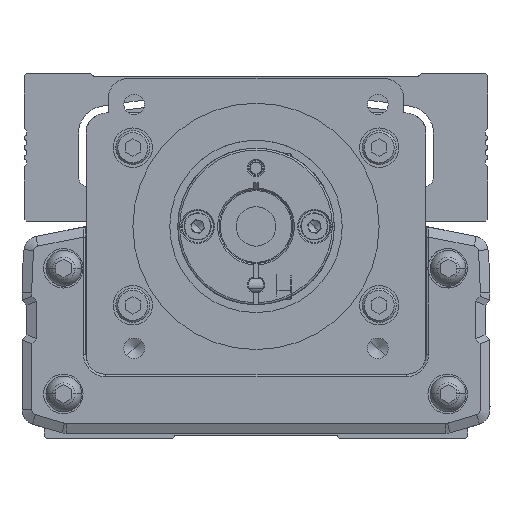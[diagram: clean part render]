
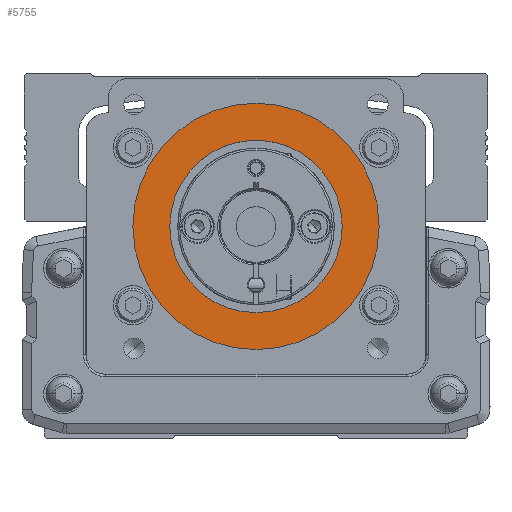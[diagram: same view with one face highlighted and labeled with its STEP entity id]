
A CAD part, front view. The second image highlights one B-rep face of the part: STEP entity #5755.
In plain terms, the highlighted planar face has unit normal (0, -1, 0).
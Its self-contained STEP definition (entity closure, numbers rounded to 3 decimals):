
#5755=ADVANCED_FACE('',(#13308,#13309),#13310,.T.);
#13308=FACE_BOUND('',#23971,.T.);
#13309=FACE_OUTER_BOUND('',#23972,.T.);
#13310=PLANE('',#23973);
#23971=EDGE_LOOP('',(#41161,#41162));
#23972=EDGE_LOOP('',(#41163,#41164));
#23973=AXIS2_PLACEMENT_3D('',#41165,#41166,#41167);
#41161=ORIENTED_EDGE('',*,*,#64077,.T.);
#41162=ORIENTED_EDGE('',*,*,#59086,.T.);
#41163=ORIENTED_EDGE('',*,*,#62937,.F.);
#41164=ORIENTED_EDGE('',*,*,#64078,.F.);
#41165=CARTESIAN_POINT('',(0.,-35.778,0.));
#41166=DIRECTION('',(0.,-1.0,0.));
#41167=DIRECTION('',(1.0,0.,0.));
#59086=EDGE_CURVE('',#70410,#70414,#70416,.T.);
#62937=EDGE_CURVE('',#76792,#76795,#76796,.T.);
#64077=EDGE_CURVE('',#70414,#70410,#78486,.T.);
#64078=EDGE_CURVE('',#76795,#76792,#78487,.T.);
#70410=VERTEX_POINT('',#86609);
#70414=VERTEX_POINT('',#86614);
#70416=CIRCLE('',#86617,17.5);
#76792=VERTEX_POINT('',#95798);
#76795=VERTEX_POINT('',#95802);
#76796=CIRCLE('',#95803,25.0);
#78486=CIRCLE('',#98192,17.5);
#78487=CIRCLE('',#98193,25.0);
#86609=CARTESIAN_POINT('',(-17.5,-35.778,0.));
#86614=CARTESIAN_POINT('',(17.5,-35.778,0.));
#86617=AXIS2_PLACEMENT_3D('',#108503,#108504,#108505);
#95798=CARTESIAN_POINT('',(25.,-35.778,0.));
#95802=CARTESIAN_POINT('',(-25.,-35.778,0.));
#95803=AXIS2_PLACEMENT_3D('',#113860,#113861,#113862);
#98192=AXIS2_PLACEMENT_3D('',#115354,#115355,#115356);
#98193=AXIS2_PLACEMENT_3D('',#115357,#115358,#115359);
#108503=CARTESIAN_POINT('',(0.,-35.778,0.));
#108504=DIRECTION('',(0.,1.0,0.));
#108505=DIRECTION('',(-1.0,0.,0.));
#113860=CARTESIAN_POINT('',(0.,-35.778,0.));
#113861=DIRECTION('',(0.,1.0,0.));
#113862=DIRECTION('',(1.0,0.,0.));
#115354=CARTESIAN_POINT('',(0.,-35.778,0.));
#115355=DIRECTION('',(0.,1.0,0.));
#115356=DIRECTION('',(-1.0,0.,0.));
#115357=CARTESIAN_POINT('',(0.,-35.778,0.));
#115358=DIRECTION('',(0.,1.0,0.));
#115359=DIRECTION('',(1.0,0.,0.));
